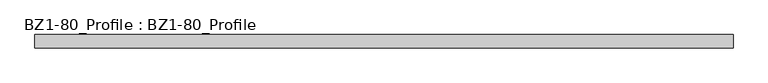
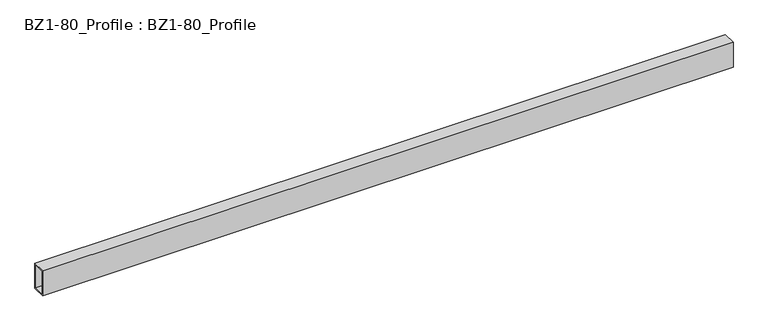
"""IFC4 building model written with IfcOpenShell, lengths in millimetres: beam geometry, BZ1-80_Profile : BZ1-80_Profile."""

from ifc_helpers import new_model, si_unit, frame, origin, place, context, project, spatial, polyline, outline, extrude, source, transform, mapped, element, save


def bz1_80_profile_bz1_80_profile_fb012803(model_context):
    return source(origin(), model_context, "Body", "SweptSolid", [
        extrude(outline(polyline([(-20.0, 40.0), (20.0, 40.0), (20.0, -40.0), (-20.0, -40.0), (-20.0, 40.0)]), holes=[polyline([(-16.0, 36.0), (-16.0, -36.0), (16.0, -36.0), (16.0, 36.0), (-16.0, 36.0)])]), frame((-1046.75, 0.0, 0.0), z_axis=(1.0, 0.0, 0.0), x_axis=(0.0, 1.0, 0.0)), (0.0, 0.0, 1.0), 2093.5),
    ])


if __name__ == "__main__":
    model = new_model("IFC4")
    model_context = context("Model", 3, world=origin())
    ifc_project = project(units=[si_unit("LENGTHUNIT", "METRE", prefix="MILLI")], contexts=[model_context])
    site = spatial("IfcSite", under=ifc_project)
    building = spatial("IfcBuilding", under=site)
    placement = place(None, origin())
    bz1_80_profile_bz1_80_profile_shape = bz1_80_profile_bz1_80_profile_fb012803(model_context)
    element("IfcBeam", 1, ObjectType="BZ1-80_Profile : BZ1-80_Profile", at=placement, inside=building, context=model_context, shape_type="MappedRepresentation", body=[
        mapped(bz1_80_profile_bz1_80_profile_shape, transform((0.0, 0.0, 0.0), x_axis=(1.0, 0.0, 0.0), y_axis=(0.0, 1.0, 0.0), z_axis=(0.0, 0.0, 1.0))),
    ])
    save(model, "model.ifc")
